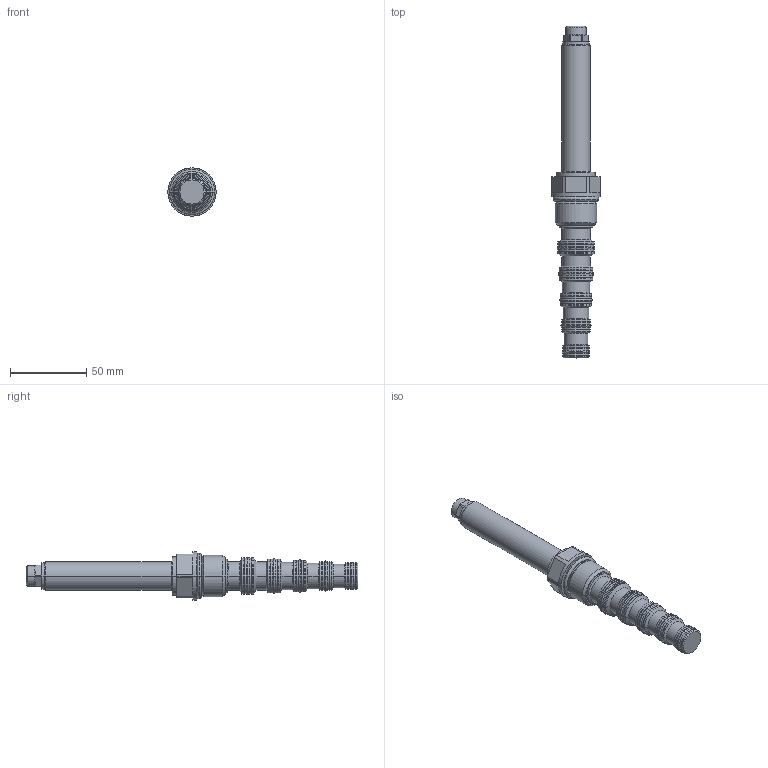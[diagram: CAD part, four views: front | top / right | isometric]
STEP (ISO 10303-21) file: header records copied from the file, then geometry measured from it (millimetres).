
FILE_DESCRIPTION((''),'2;1');
FILE_NAME('PRT0007','2009-03-02T',('JCS'),(''),'PRO/ENGINEER BY PARAMETRIC TECHNOLOGY CORPORATION, 2008010','PRO/ENGINEER BY PARAMETRIC TECHNOLOGY CORPORATION, 2008010','');
FILE_SCHEMA(('CONFIG_CONTROL_DESIGN'));
Length unit declared in the file: inch
Products named in the file (1): PRT0007
Bounding box: 31.75 x 218.29 x 31.75 mm (x, y, z)
Volume: 54547.2 mm3; surface area: 25766.2 mm2
Topology: 5 solids, 6 shells, 332 faces, 694 edges, 394 vertices
Faces by surface type: cylinder 112, cone 66, plane 54, torus 52, revolution 48
Entity records: 9728 total; most frequent: CARTESIAN_POINT 2478, DIRECTION 1642, ORIENTED_EDGE 1388, AXIS2_PLACEMENT_3D 694, EDGE_CURVE 694, CIRCLE 410, VERTEX_POINT 394, EDGE_LOOP 360
